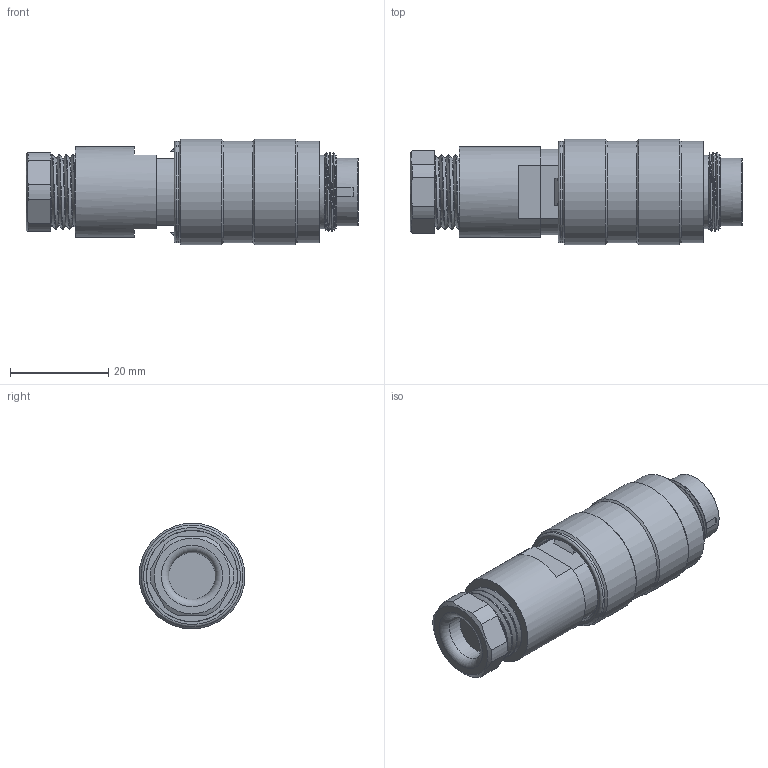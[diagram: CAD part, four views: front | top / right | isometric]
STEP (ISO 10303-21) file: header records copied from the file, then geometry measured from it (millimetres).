
FILE_DESCRIPTION(/* description */ (''),/* implementation_level */ '2;1');
FILE_NAME(/* name */ '09-0117-70-05-001_00.stp',/* time_stamp */ '2017-11-08T14:23:11+01:00',/* author */ (''),/* organization */ (''),/* preprocessor_version */ 'ST-DEVELOPER v16',/* originating_system */ 'SIEMENS PLM Software NX 11.0',/* authorisation */ '');
FILE_SCHEMA (('AUTOMOTIVE_DESIGN { 1 0 10303 214 3 1 1 1 }'));
Length unit declared in the file: millimetre
Products named in the file (1): jbyc0744C47C394z
Bounding box: 67.5 x 21.5 x 21.5 mm (x, y, z)
Volume: 17333.7 mm3; surface area: 5959.3 mm2
Topology: 1 solids, 1 shells, 131 faces, 307 edges, 195 vertices
Faces by surface type: plane 59, cylinder 32, cone 19, bspline 15, revolution 4, torus 2
Full cylindrical faces by diameter (mm): 1.49 x5, 2.25 x1, 9.5 x1, 13.8 x1, 15 x2, 18.5 x1, 20.7 x3, 21.5 x2
Entity records: 6542 total; most frequent: CARTESIAN_POINT 3805, DIRECTION 542, ORIENTED_EDGE 500, EDGE_CURVE 250, AXIS2_PLACEMENT_3D 214, EDGE_LOOP 195, VERTEX_POINT 185, ADVANCED_FACE 131
